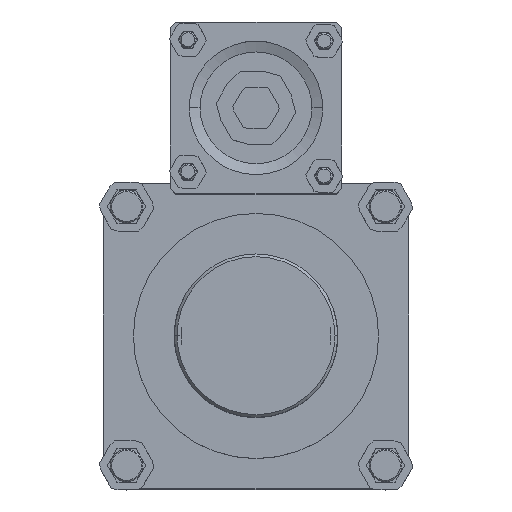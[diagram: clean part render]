
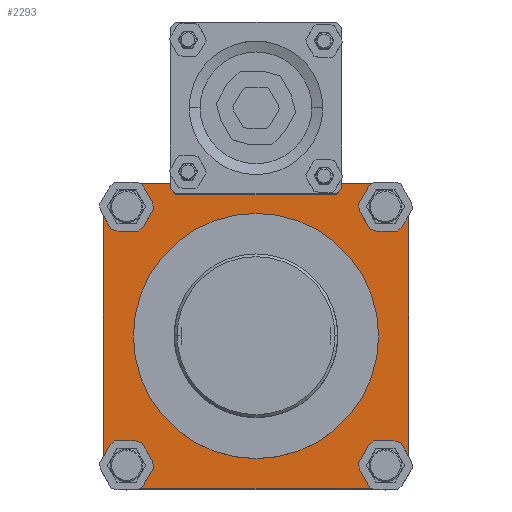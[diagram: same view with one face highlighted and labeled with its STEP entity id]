
A CAD part, top view. The second image highlights one B-rep face of the part: STEP entity #2293.
In plain terms, the highlighted planar face has unit normal (0, 0, 1).
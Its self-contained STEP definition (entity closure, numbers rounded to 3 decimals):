
#39 = CARTESIAN_POINT ( 'NONE',  ( 44.542, 56., 198. ) ) ;
#53 = ORIENTED_EDGE ( 'NONE', *, *, #10909, .F. ) ;
#117 = DIRECTION ( 'NONE',  ( 0., 1., 0. ) ) ;
#244 = DIRECTION ( 'NONE',  ( 1., 0., 0. ) ) ;
#246 = ORIENTED_EDGE ( 'NONE', *, *, #12542, .F. ) ;
#290 = ORIENTED_EDGE ( 'NONE', *, *, #12262, .F. ) ;
#414 = CARTESIAN_POINT ( 'NONE',  ( 44.542, -56., 198. ) ) ;
#503 = DIRECTION ( 'NONE',  ( 0., 1., 0. ) ) ;
#633 = ORIENTED_EDGE ( 'NONE', *, *, #12108, .F. ) ;
#698 = CARTESIAN_POINT ( 'NONE',  ( 45., 0., 198. ) ) ;
#699 = VERTEX_POINT ( 'NONE', #8735 ) ;
#732 = LINE ( 'NONE', #13066, #13183 ) ;
#774 = LINE ( 'NONE', #6744, #11136 ) ;
#882 = FACE_BOUND ( 'NONE', #12400, .T. ) ;
#1054 = LINE ( 'NONE', #11500, #5954 ) ;
#1080 = VERTEX_POINT ( 'NONE', #39 ) ;
#1216 = CARTESIAN_POINT ( 'NONE',  ( -47.5, 47.5, 198. ) ) ;
#1302 = CARTESIAN_POINT ( 'NONE',  ( -47.5, -47.5, 198. ) ) ;
#1316 = DIRECTION ( 'NONE',  ( 0., 0., 1. ) ) ;
#1519 = CARTESIAN_POINT ( 'NONE',  ( 56., 44.542, 198. ) ) ;
#1732 = VERTEX_POINT ( 'NONE', #3724 ) ;
#1772 = VERTEX_POINT ( 'NONE', #2767 ) ;
#1820 = CARTESIAN_POINT ( 'NONE',  ( 0., 56., 198. ) ) ;
#1877 = ORIENTED_EDGE ( 'NONE', *, *, #5321, .T. ) ;
#2079 = AXIS2_PLACEMENT_3D ( 'NONE', #6097, #13273, #7130 ) ;
#2098 = VERTEX_POINT ( 'NONE', #1519 ) ;
#2207 = ORIENTED_EDGE ( 'NONE', *, *, #3172, .F. ) ;
#2258 = DIRECTION ( 'NONE',  ( 1., 0., 0. ) ) ;
#2293 = ADVANCED_FACE ( 'NONE', ( #882, #3963 ), #3477, .T. ) ;
#2353 = DIRECTION ( 'NONE',  ( 1., 0., 0. ) ) ;
#2631 = VERTEX_POINT ( 'NONE', #10121 ) ;
#2767 = CARTESIAN_POINT ( 'NONE',  ( -56., 44.542, 198. ) ) ;
#2867 = DIRECTION ( 'NONE',  ( 1., 0., 0. ) ) ;
#2926 = AXIS2_PLACEMENT_3D ( 'NONE', #5703, #12901, #6758 ) ;
#2984 = EDGE_LOOP ( 'NONE', ( #8724, #8375, #10001, #6936, #6607, #13193, #1877, #633, #6220, #10482, #53, #2207 ) ) ;
#3054 = CIRCLE ( 'NONE', #2926, 45. ) ;
#3136 = VERTEX_POINT ( 'NONE', #8431 ) ;
#3172 = EDGE_CURVE ( 'NONE', #1772, #9319, #7496, .T. ) ;
#3477 = PLANE ( 'NONE',  #4936 ) ;
#3724 = CARTESIAN_POINT ( 'NONE',  ( -44.542, 56., 198. ) ) ;
#3963 = FACE_OUTER_BOUND ( 'NONE', #2984, .T. ) ;
#4117 = CIRCLE ( 'NONE', #8056, 9. ) ;
#4133 = CIRCLE ( 'NONE', #8675, 9. ) ;
#4263 = CARTESIAN_POINT ( 'NONE',  ( -47.5, -47.5, 198. ) ) ;
#4762 = CARTESIAN_POINT ( 'NONE',  ( 47.5, 47.5, 198. ) ) ;
#4936 = AXIS2_PLACEMENT_3D ( 'NONE', #5561, #12761, #6623 ) ;
#5006 = AXIS2_PLACEMENT_3D ( 'NONE', #12643, #6491, #244 ) ;
#5034 = CIRCLE ( 'NONE', #12987, 9. ) ;
#5160 = CIRCLE ( 'NONE', #13046, 9. ) ;
#5299 = DIRECTION ( 'NONE',  ( 1., 0., 0. ) ) ;
#5321 = EDGE_CURVE ( 'NONE', #5652, #2098, #1054, .T. ) ;
#5561 = CARTESIAN_POINT ( 'NONE',  ( 0., 0., 198. ) ) ;
#5595 = CARTESIAN_POINT ( 'NONE',  ( 47.5, -47.5, 198. ) ) ;
#5652 = VERTEX_POINT ( 'NONE', #6921 ) ;
#5703 = CARTESIAN_POINT ( 'NONE',  ( 0., 0., 198. ) ) ;
#5805 = DIRECTION ( 'NONE',  ( 1., 0., 0. ) ) ;
#5852 = CIRCLE ( 'NONE', #7234, 9. ) ;
#5870 = DIRECTION ( 'NONE',  ( 1., 0., 0. ) ) ;
#5929 = DIRECTION ( 'NONE',  ( 0., 0., 1. ) ) ;
#5954 = VECTOR ( 'NONE', #117, 1000. ) ;
#6097 = CARTESIAN_POINT ( 'NONE',  ( 0., 0., 198. ) ) ;
#6134 = EDGE_CURVE ( 'NONE', #2631, #8401, #4133, .T. ) ;
#6220 = ORIENTED_EDGE ( 'NONE', *, *, #12989, .F. ) ;
#6405 = CARTESIAN_POINT ( 'NONE',  ( -38.5, 47.5, 198. ) ) ;
#6491 = DIRECTION ( 'NONE',  ( 0., 0., 1. ) ) ;
#6607 = ORIENTED_EDGE ( 'NONE', *, *, #6134, .F. ) ;
#6623 = DIRECTION ( 'NONE',  ( 1., 0., 0. ) ) ;
#6650 = DIRECTION ( 'NONE',  ( 1., 0., 0. ) ) ;
#6744 = CARTESIAN_POINT ( 'NONE',  ( -56., 0., 198. ) ) ;
#6758 = DIRECTION ( 'NONE',  ( 1., 0., 0. ) ) ;
#6911 = VERTEX_POINT ( 'NONE', #698 ) ;
#6921 = CARTESIAN_POINT ( 'NONE',  ( 56., -44.542, 198. ) ) ;
#6936 = ORIENTED_EDGE ( 'NONE', *, *, #10181, .T. ) ;
#7130 = DIRECTION ( 'NONE',  ( 1., 0., 0. ) ) ;
#7220 = CIRCLE ( 'NONE', #7363, 9. ) ;
#7234 = AXIS2_PLACEMENT_3D ( 'NONE', #4762, #11967, #5805 ) ;
#7363 = AXIS2_PLACEMENT_3D ( 'NONE', #4263, #11486, #5299 ) ;
#7496 = CIRCLE ( 'NONE', #5006, 9. ) ;
#7558 = CARTESIAN_POINT ( 'NONE',  ( 47.5, 47.5, 198. ) ) ;
#7935 = VERTEX_POINT ( 'NONE', #11081 ) ;
#8056 = AXIS2_PLACEMENT_3D ( 'NONE', #1216, #8482, #2258 ) ;
#8375 = ORIENTED_EDGE ( 'NONE', *, *, #10863, .F. ) ;
#8401 = VERTEX_POINT ( 'NONE', #414 ) ;
#8431 = CARTESIAN_POINT ( 'NONE',  ( -38.5, -47.5, 198. ) ) ;
#8482 = DIRECTION ( 'NONE',  ( 0., 0., 1. ) ) ;
#8566 = DIRECTION ( 'NONE',  ( 0., 0., 1. ) ) ;
#8584 = DIRECTION ( 'NONE',  ( 1., 0., 0. ) ) ;
#8635 = EDGE_CURVE ( 'NONE', #5652, #2631, #5034, .T. ) ;
#8675 = AXIS2_PLACEMENT_3D ( 'NONE', #5595, #12802, #6650 ) ;
#8724 = ORIENTED_EDGE ( 'NONE', *, *, #13156, .F. ) ;
#8735 = CARTESIAN_POINT ( 'NONE',  ( -56., -44.542, 198. ) ) ;
#8982 = CARTESIAN_POINT ( 'NONE',  ( 38.5, 47.5, 198. ) ) ;
#9215 = VERTEX_POINT ( 'NONE', #8982 ) ;
#9319 = VERTEX_POINT ( 'NONE', #6405 ) ;
#9581 = CARTESIAN_POINT ( 'NONE',  ( -45., 0., 198. ) ) ;
#9942 = VERTEX_POINT ( 'NONE', #9581 ) ;
#10001 = ORIENTED_EDGE ( 'NONE', *, *, #10940, .F. ) ;
#10121 = CARTESIAN_POINT ( 'NONE',  ( 38.5, -47.5, 198. ) ) ;
#10181 = EDGE_CURVE ( 'NONE', #7935, #8401, #732, .T. ) ;
#10482 = ORIENTED_EDGE ( 'NONE', *, *, #10669, .F. ) ;
#10669 = EDGE_CURVE ( 'NONE', #1732, #1080, #12196, .T. ) ;
#10863 = EDGE_CURVE ( 'NONE', #3136, #699, #7220, .T. ) ;
#10909 = EDGE_CURVE ( 'NONE', #9319, #1732, #4117, .T. ) ;
#10940 = EDGE_CURVE ( 'NONE', #7935, #3136, #11381, .T. ) ;
#11081 = CARTESIAN_POINT ( 'NONE',  ( -44.542, -56., 198. ) ) ;
#11136 = VECTOR ( 'NONE', #503, 1000. ) ;
#11257 = AXIS2_PLACEMENT_3D ( 'NONE', #1302, #8566, #2353 ) ;
#11381 = CIRCLE ( 'NONE', #11257, 9. ) ;
#11478 = CIRCLE ( 'NONE', #2079, 45. ) ;
#11486 = DIRECTION ( 'NONE',  ( 0., 0., 1. ) ) ;
#11500 = CARTESIAN_POINT ( 'NONE',  ( 56., 0., 198. ) ) ;
#11871 = VECTOR ( 'NONE', #2867, 1000. ) ;
#11967 = DIRECTION ( 'NONE',  ( 0., 0., 1. ) ) ;
#12075 = CARTESIAN_POINT ( 'NONE',  ( 47.5, -47.5, 198. ) ) ;
#12108 = EDGE_CURVE ( 'NONE', #9215, #2098, #5852, .T. ) ;
#12196 = LINE ( 'NONE', #1820, #11871 ) ;
#12262 = EDGE_CURVE ( 'NONE', #6911, #9942, #11478, .T. ) ;
#12400 = EDGE_LOOP ( 'NONE', ( #246, #290 ) ) ;
#12542 = EDGE_CURVE ( 'NONE', #9942, #6911, #3054, .T. ) ;
#12643 = CARTESIAN_POINT ( 'NONE',  ( -47.5, 47.5, 198. ) ) ;
#12761 = DIRECTION ( 'NONE',  ( 0., 0., 1. ) ) ;
#12802 = DIRECTION ( 'NONE',  ( 0., 0., 1. ) ) ;
#12901 = DIRECTION ( 'NONE',  ( 0., 0., 1. ) ) ;
#12987 = AXIS2_PLACEMENT_3D ( 'NONE', #12075, #5929, #13115 ) ;
#12989 = EDGE_CURVE ( 'NONE', #1080, #9215, #5160, .T. ) ;
#13046 = AXIS2_PLACEMENT_3D ( 'NONE', #7558, #1316, #8584 ) ;
#13066 = CARTESIAN_POINT ( 'NONE',  ( 0., -56., 198. ) ) ;
#13115 = DIRECTION ( 'NONE',  ( 1., 0., 0. ) ) ;
#13156 = EDGE_CURVE ( 'NONE', #699, #1772, #774, .T. ) ;
#13183 = VECTOR ( 'NONE', #5870, 1000. ) ;
#13193 = ORIENTED_EDGE ( 'NONE', *, *, #8635, .F. ) ;
#13273 = DIRECTION ( 'NONE',  ( 0., 0., 1. ) ) ;
